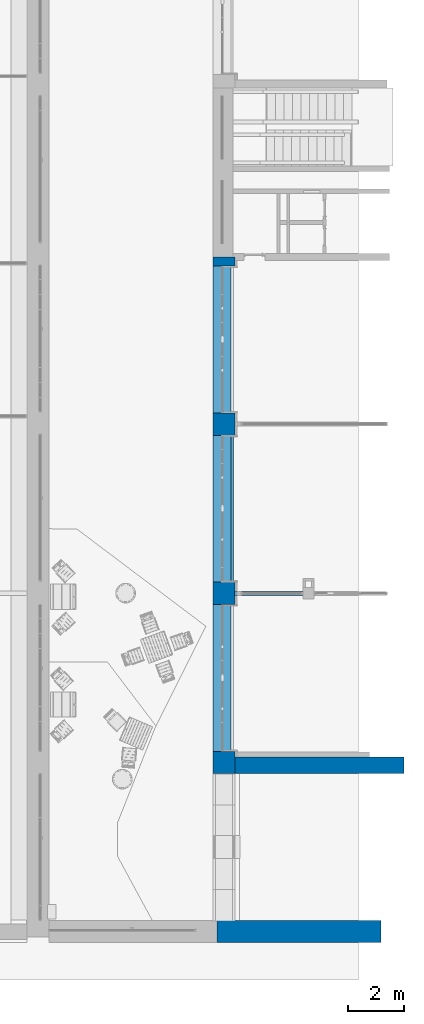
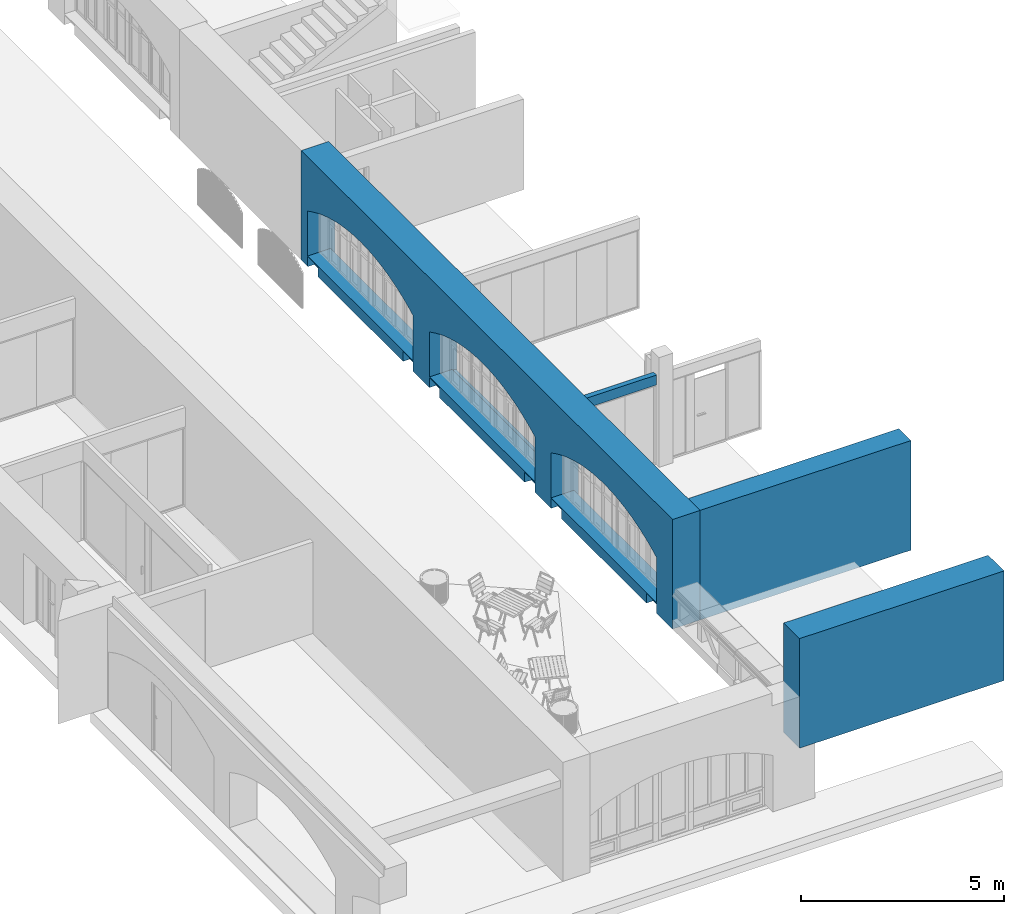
# One storey, part 71 of 88: 5 walls, 13 openings.
"""IFC2X3 building model written with IfcOpenShell, lengths in millimetres."""

from ifc_helpers import new_model, entity, si_unit, converted_unit, derived_unit, direction, frame, frame_2d, origin, origin_2d_with_axis, place, context, subcontext, project, spatial, polyline, circle_curve, parameter, trimmed, segment, composite_curve, rectangle, outline, extrude, faceted_brep, material, layer, layer_set, layer_usage, type_object, element, save


model = new_model("IFC2X3")

# Units and contexts
model_context = context("Model", 3, precision=0.01, world=origin(), true_north=direction((6.123031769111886e-17, 1.0)))
body_context = subcontext(model_context, "Body", "Model", "MODEL_VIEW")
ifc_project = project(units=[si_unit("LENGTHUNIT", "METRE", prefix="MILLI"), si_unit("AREAUNIT", "SQUARE_METRE"), si_unit("VOLUMEUNIT", "CUBIC_METRE"), converted_unit("PLANEANGLEUNIT", "DEGREE", entity("IfcPlaneAngleMeasure", 0.017453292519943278), si_unit("PLANEANGLEUNIT", "RADIAN"), dimensions=[0, 0, 0, 0, 0, 0, 0]), si_unit("MASSUNIT", "GRAM", prefix="KILO"), derived_unit("MASSDENSITYUNIT", [(si_unit("MASSUNIT", "GRAM", prefix="KILO"), 1), (si_unit("LENGTHUNIT", "METRE"), -3)]), derived_unit("IONCONCENTRATIONUNIT", [(si_unit("MASSUNIT", "GRAM", prefix="KILO"), 1), (si_unit("LENGTHUNIT", "METRE"), -3)]), derived_unit("MOMENTOFINERTIAUNIT", [(si_unit("LENGTHUNIT", "METRE"), 4)]), si_unit("TIMEUNIT", "SECOND"), si_unit("FREQUENCYUNIT", "HERTZ"), si_unit("THERMODYNAMICTEMPERATUREUNIT", "DEGREE_CELSIUS"), derived_unit("THERMALTRANSMITTANCEUNIT", [(si_unit("MASSUNIT", "GRAM", prefix="KILO"), 1), (si_unit("THERMODYNAMICTEMPERATUREUNIT", "KELVIN"), -1), (si_unit("TIMEUNIT", "SECOND"), -3)]), derived_unit("THERMALCONDUCTANCEUNIT", [(si_unit("MASSUNIT", "GRAM", prefix="KILO"), 1), (si_unit("THERMODYNAMICTEMPERATUREUNIT", "KELVIN"), -1), (si_unit("TIMEUNIT", "SECOND"), -3), (si_unit("LENGTHUNIT", "METRE"), 1)]), derived_unit("VOLUMETRICFLOWRATEUNIT", [(si_unit("LENGTHUNIT", "METRE", prefix="DECI"), 3), (si_unit("TIMEUNIT", "SECOND"), -1)]), derived_unit("MASSFLOWRATEUNIT", [(si_unit("MASSUNIT", "GRAM", prefix="KILO"), 1), (si_unit("TIMEUNIT", "SECOND"), -1)]), derived_unit("ROTATIONALFREQUENCYUNIT", [(si_unit("TIMEUNIT", "SECOND"), -1)]), si_unit("ELECTRICCURRENTUNIT", "AMPERE"), si_unit("ELECTRICVOLTAGEUNIT", "VOLT"), si_unit("POWERUNIT", "WATT"), si_unit("FORCEUNIT", "NEWTON", prefix="KILO"), si_unit("ILLUMINANCEUNIT", "LUX"), si_unit("LUMINOUSFLUXUNIT", "LUMEN"), si_unit("LUMINOUSINTENSITYUNIT", "CANDELA"), si_unit("ENERGYUNIT", "JOULE"), derived_unit("USERDEFINED", [(si_unit("MASSUNIT", "GRAM", prefix="KILO"), -1), (si_unit("LENGTHUNIT", "METRE"), -2), (si_unit("TIMEUNIT", "SECOND"), 3), (si_unit("LUMINOUSFLUXUNIT", "LUMEN"), 1)]), derived_unit("USERDEFINED", [(si_unit("MASSUNIT", "GRAM", prefix="KILO"), 1), (si_unit("TIMEUNIT", "SECOND"), -3), (si_unit("LENGTHUNIT", "METRE"), 3), (si_unit("ELECTRICCURRENTUNIT", "AMPERE"), -2)]), derived_unit("SOUNDPOWERUNIT", [(si_unit("MASSUNIT", "GRAM", prefix="KILO"), 1), (si_unit("TIMEUNIT", "SECOND"), -3), (si_unit("LENGTHUNIT", "METRE"), 2)]), derived_unit("SOUNDPRESSUREUNIT", [(si_unit("MASSUNIT", "GRAM", prefix="KILO"), 1), (si_unit("LENGTHUNIT", "METRE"), -1), (si_unit("TIMEUNIT", "SECOND"), -2)]), derived_unit("LINEARVELOCITYUNIT", [(si_unit("LENGTHUNIT", "METRE"), 1), (si_unit("TIMEUNIT", "SECOND"), -1)]), si_unit("PRESSUREUNIT", "PASCAL"), derived_unit("USERDEFINED", [(si_unit("MASSUNIT", "GRAM", prefix="KILO"), 1), (si_unit("LENGTHUNIT", "METRE"), -2), (si_unit("TIMEUNIT", "SECOND"), -2)]), derived_unit("LINEARFORCEUNIT", [(si_unit("MASSUNIT", "GRAM", prefix="KILO"), 1), (si_unit("TIMEUNIT", "SECOND"), -2)]), derived_unit("PLANARFORCEUNIT", [(si_unit("MASSUNIT", "GRAM", prefix="KILO"), 1), (si_unit("LENGTHUNIT", "METRE"), -1), (si_unit("TIMEUNIT", "SECOND"), -2)]), derived_unit("SPECIFICHEATCAPACITYUNIT", [(si_unit("THERMODYNAMICTEMPERATUREUNIT", "KELVIN"), -1), (si_unit("LENGTHUNIT", "METRE"), 2), (si_unit("TIMEUNIT", "SECOND"), -2)]), derived_unit("HEATFLUXDENSITYUNIT", [(si_unit("MASSUNIT", "GRAM", prefix="KILO"), 1), (si_unit("TIMEUNIT", "SECOND"), -3)]), derived_unit("HEATINGVALUEUNIT", [(si_unit("LENGTHUNIT", "METRE"), 2), (si_unit("TIMEUNIT", "SECOND"), -2)]), derived_unit("VAPORPERMEABILITYUNIT", [(si_unit("LENGTHUNIT", "METRE"), -1), (si_unit("TIMEUNIT", "SECOND"), 1)]), derived_unit("DYNAMICVISCOSITYUNIT", [(si_unit("MASSUNIT", "GRAM", prefix="KILO"), 1), (si_unit("TIMEUNIT", "SECOND"), -1), (si_unit("LENGTHUNIT", "METRE"), -1)]), derived_unit("THERMALEXPANSIONCOEFFICIENTUNIT", [(si_unit("THERMODYNAMICTEMPERATUREUNIT", "KELVIN"), -1)]), derived_unit("MODULUSOFELASTICITYUNIT", [(si_unit("MASSUNIT", "GRAM", prefix="KILO"), 1), (si_unit("LENGTHUNIT", "METRE"), -1), (si_unit("TIMEUNIT", "SECOND"), -2)]), derived_unit("ISOTHERMALMOISTURECAPACITYUNIT", [(si_unit("MASSUNIT", "GRAM", prefix="KILO"), -1), (si_unit("LENGTHUNIT", "METRE"), 3)]), derived_unit("MOISTUREDIFFUSIVITYUNIT", [(si_unit("TIMEUNIT", "SECOND"), -1), (si_unit("LENGTHUNIT", "METRE"), 2)]), derived_unit("MASSPERLENGTHUNIT", [(si_unit("MASSUNIT", "GRAM", prefix="KILO"), 1), (si_unit("LENGTHUNIT", "METRE"), -1)]), derived_unit("THERMALRESISTANCEUNIT", [(si_unit("MASSUNIT", "GRAM", prefix="KILO"), -1), (si_unit("TIMEUNIT", "SECOND"), 3), (si_unit("THERMODYNAMICTEMPERATUREUNIT", "KELVIN"), 1)]), derived_unit("ACCELERATIONUNIT", [(si_unit("LENGTHUNIT", "METRE"), 1), (si_unit("TIMEUNIT", "SECOND"), -2)]), derived_unit("ANGULARVELOCITYUNIT", [(si_unit("TIMEUNIT", "SECOND"), -1), (si_unit("PLANEANGLEUNIT", "RADIAN"), 1)]), derived_unit("LINEARSTIFFNESSUNIT", [(si_unit("MASSUNIT", "GRAM", prefix="KILO"), 1), (si_unit("TIMEUNIT", "SECOND"), -2)]), derived_unit("WARPINGCONSTANTUNIT", [(si_unit("LENGTHUNIT", "METRE"), 6)]), derived_unit("LINEARMOMENTUNIT", [(si_unit("MASSUNIT", "GRAM", prefix="KILO"), 1), (si_unit("LENGTHUNIT", "METRE"), 1), (si_unit("TIMEUNIT", "SECOND"), -2)]), derived_unit("TORQUEUNIT", [(si_unit("MASSUNIT", "GRAM", prefix="KILO"), 1), (si_unit("LENGTHUNIT", "METRE"), 2), (si_unit("TIMEUNIT", "SECOND"), -2)])], contexts=[model_context])

# Site, building, storey
site_placement = place(None, origin())
site = spatial("IfcSite", under=ifc_project, at=site_placement, Name="Default", CompositionType="ELEMENT")
building_placement = place(site_placement, origin())
building = spatial("IfcBuilding", under=site, at=building_placement, Name="Eesti Rahvusraamatukogu hoone renoveerimise projekteerimistööd", CompositionType="ELEMENT")
storey_placement = place(building_placement, origin())
storey = spatial("IfcBuildingStorey", under=building, at=storey_placement, Name="1. korrus", CompositionType="ELEMENT", Elevation=0.0)

# Wall, openings
ifc_material_1 = material(Name="ol. olev materjal")
ifc_layer_1 = layer(ifc_material_1, 780.0)
ifc_layer_set_1 = layer_set([ifc_layer_1], Name="Basic Wall:ol. olev - 780mm")
ifc_layer_usage_1 = layer_usage(ifc_layer_set_1, "AXIS2", "NEGATIVE", 390.0)
wall_type_1 = type_object("IfcWallType", Name="Basic Wall:ol. olev - 780mm", PredefinedType="STANDARD", material=ifc_layer_set_1)
wall_1_placement = place(storey_placement, frame((-36390.0, 24315.0, 1650.0), z_axis=(0.0, 0.0, 1.0), x_axis=(0.0, -1.0, 0.0)))
wall_1 = element("IfcWallStandardCase", 1, at=wall_1_placement, inside=storey, type_object=wall_type_1, material=ifc_layer_usage_1, Name="Basic Wall:ol. olev - 780mm", ObjectType="Basic Wall:ol. olev - 780mm", context=body_context, shape_type="SweptSolid", body=[
    extrude(rectangle(XDim=18314.999999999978, YDim=779.9999999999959, at=frame_2d((9157.499999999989, 3.126388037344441e-13), x_axis=(-1.0, 0.0))), origin(), (0.0, 0.0, 1.0), 3300.000000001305),
])
opening_1_placement = place(wall_1_placement, frame((24315.0, 36390.0, -1650.0)))
element("IfcOpeningElement", 2, at=opening_1_placement, cuts=wall_1, Name="Basic Wall:ol. olev - 780mm", ObjectType="Recess", context=body_context, shape_type="SweptSolid", body=[
    extrude(rectangle(XDim=3600.000000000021, YDim=499.999999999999, at=origin_2d_with_axis()), frame((-7040.0, -36790.0, 150.0), z_axis=(0.0, 1.0, 0.0), x_axis=(0.0, 0.0, -1.0)), (0.0, 0.0, 1.0), 199.99999999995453),
    extrude(rectangle(XDim=3600.000000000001, YDim=499.999999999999, at=frame_2d((0.0, -4.334310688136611e-12), x_axis=(1.0, 0.0))), frame((-47740.0, -36790.0, 150.0), z_axis=(0.0, 1.0, 0.0), x_axis=(0.0, 0.0, -1.0)), (0.0, 0.0, 1.0), 199.99999999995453),
    extrude(rectangle(XDim=3599.9999999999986, YDim=499.999999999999, at=frame_2d((0.0, -4.334310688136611e-12), x_axis=(1.0, 0.0))), frame((-43040.0, -36790.0, 150.0), z_axis=(0.0, 1.0, 0.0), x_axis=(0.0, 0.0, -1.0)), (0.0, 0.0, 1.0), 199.99999999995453),
    extrude(rectangle(XDim=3600.0000000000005, YDim=499.999999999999, at=frame_2d((2.2737367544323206e-13, -4.334310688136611e-12), x_axis=(1.0, 0.0))), frame((-41740.0, -36790.0, 150.0), z_axis=(0.0, 1.0, 0.0), x_axis=(0.0, 0.0, -1.0)), (0.0, 0.0, 1.0), 199.99999999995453),
    extrude(rectangle(XDim=3599.999999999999, YDim=499.999999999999, at=origin_2d_with_axis()), frame((-37040.0, -36790.0, 150.0), z_axis=(0.0, 1.0, 0.0), x_axis=(0.0, 0.0, -1.0)), (0.0, 0.0, 1.0), 199.99999999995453),
    extrude(rectangle(XDim=3599.999999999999, YDim=499.999999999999, at=origin_2d_with_axis()), frame((-35740.0, -36790.0, 150.0), z_axis=(0.0, 1.0, 0.0), x_axis=(0.0, 0.0, -1.0)), (0.0, 0.0, 1.0), 199.99999999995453),
    extrude(rectangle(XDim=3599.9999999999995, YDim=499.999999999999, at=frame_2d((-2.2737367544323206e-13, 0.0), x_axis=(1.0, 0.0))), frame((-31040.0, -36790.0, 150.0), z_axis=(0.0, 1.0, 0.0), x_axis=(0.0, 0.0, -1.0)), (0.0, 0.0, 1.0), 199.99999999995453),
    extrude(rectangle(XDim=3600.000000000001, YDim=499.999999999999, at=origin_2d_with_axis()), frame((-23740.0, -36790.0, 150.0), z_axis=(0.0, 1.0, 0.0), x_axis=(0.0, 0.0, -1.0)), (0.0, 0.0, 1.0), 199.99999999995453),
    extrude(rectangle(XDim=3600.0000000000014, YDim=500.0000000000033, at=frame_2d((-2.2737367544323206e-13, 2.1600499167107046e-12), x_axis=(1.0, 0.0))), frame((-19040.0, -36790.0, 150.0), z_axis=(0.0, 1.0, 0.0), x_axis=(0.0, 0.0, -1.0)), (0.0, 0.0, 1.0), 199.99999999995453),
    extrude(rectangle(XDim=3600.000000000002, YDim=499.999999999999, at=origin_2d_with_axis()), frame((-17740.0, -36790.0, 150.0), z_axis=(0.0, 1.0, 0.0), x_axis=(0.0, 0.0, -1.0)), (0.0, 0.0, 1.0), 199.99999999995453),
    extrude(rectangle(XDim=3600.0000000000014, YDim=500.0000000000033, at=origin_2d_with_axis()), frame((-13040.0, -36790.0, 150.0), z_axis=(0.0, 1.0, 0.0), x_axis=(0.0, 0.0, -1.0)), (0.0, 0.0, 1.0), 199.99999999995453),
    extrude(rectangle(XDim=3600.0000000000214, YDim=499.999999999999, at=origin_2d_with_axis()), frame((-11740.0, -36790.0, 150.0), z_axis=(0.0, 1.0, 0.0), x_axis=(0.0, 0.0, -1.0)), (0.0, 0.0, 1.0), 199.99999999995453),
])
opening_2_placement = place(wall_1_placement, frame((5526.595272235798, -542.4000000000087, 320.0)))
element("IfcOpeningElement", 3, at=opening_2_placement, cuts=wall_1, Name="Basic Wall:ol. olev - 780mm", ObjectType="Opening", context=body_context, shape_type="SweptSolid", body=[
    extrude(outline(composite_curve([segment(polyline([(-675.0, -2600.0), (675.0, -2600.0)]), True, "CONTINUOUS"), segment(trimmed(circle_curve(frame_2d((-4195.143901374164, 0.0), x_axis=(0.0, -1.0)), 5520.7156800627), [parameter(61.90379627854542)], [parameter(118.09620372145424)], True, "PARAMETER"), True, "CONTINUOUS"), segment(polyline([(675.0, 2600.0), (-675.0, 2600.0)]), True, "CONTINUOUS"), segment(polyline([(-675.0, 2600.0), (-675.0, -2600.0)]), True, "CONTINUOUS")], self_intersect=False)), frame((-2601.5952722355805, 0.0, 675.0), z_axis=(0.0, 1.0, 0.0), x_axis=(0.0, 0.0, 1.0)), (0.0, 0.0, 1.0), 1084.8000000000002),
])
opening_3_placement = place(wall_1_placement, frame((11526.595272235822, -542.4000000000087, 320.0)))
element("IfcOpeningElement", 4, at=opening_3_placement, cuts=wall_1, Name="Basic Wall:ol. olev - 780mm", ObjectType="Opening", context=body_context, shape_type="SweptSolid", body=[
    extrude(outline(composite_curve([segment(polyline([(-675.0, -2600.0), (675.0, -2600.0)]), True, "CONTINUOUS"), segment(trimmed(circle_curve(frame_2d((-4195.143901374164, 0.0), x_axis=(0.0, -1.0)), 5520.7156800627), [parameter(61.90379627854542)], [parameter(118.09620372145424)], True, "PARAMETER"), True, "CONTINUOUS"), segment(polyline([(675.0, 2600.0), (-675.0, 2600.0)]), True, "CONTINUOUS"), segment(polyline([(-675.0, 2600.0), (-675.0, -2600.0)]), True, "CONTINUOUS")], self_intersect=False)), frame((-2601.5952722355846, 0.0, 675.0), z_axis=(0.0, 1.0, 0.0), x_axis=(0.0, 0.0, 1.0)), (0.0, 0.0, 1.0), 1084.8000000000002),
])
opening_4_placement = place(wall_1_placement, frame((17526.59527223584, -542.4000000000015, 320.0)))
element("IfcOpeningElement", 5, at=opening_4_placement, cuts=wall_1, Name="Basic Wall:ol. olev - 780mm", ObjectType="Opening", context=body_context, shape_type="SweptSolid", body=[
    extrude(outline(composite_curve([segment(polyline([(-675.0, -2600.0), (675.0, -2600.0)]), True, "CONTINUOUS"), segment(trimmed(circle_curve(frame_2d((-4195.143901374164, 0.0), x_axis=(0.0, -1.0)), 5520.7156800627), [parameter(61.90379627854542)], [parameter(118.09620372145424)], True, "PARAMETER"), True, "CONTINUOUS"), segment(polyline([(675.0, 2600.0), (-675.0, 2600.0)]), True, "CONTINUOUS"), segment(polyline([(-675.0, 2600.0), (-675.0, -2600.0)]), True, "CONTINUOUS")], self_intersect=False)), frame((-2601.5952722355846, 0.0, 675.0), z_axis=(0.0, 1.0, 0.0), x_axis=(0.0, 0.0, 1.0)), (0.0, 0.0, 1.0), 1084.8000000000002),
])
opening_5_placement = place(wall_1_placement, frame((24315.0, 36390.0, -1650.0)))
element("IfcOpeningElement", 6, at=opening_5_placement, cuts=wall_1, Name="Basic Wall:ol. olev - 780mm", ObjectType="Recess", context=body_context, shape_type="SweptSolid", body=[
    extrude(rectangle(XDim=320.0000000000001, YDim=5199.999999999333, at=frame_2d((-1.2789769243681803e-13, 2.2737367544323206e-12), x_axis=(1.0, 0.0))), frame((-21390.0, -36130.0, 1810.0), z_axis=(0.0, 1.0, 0.0), x_axis=(0.0, 0.0, -1.0)), (0.0, 0.0, 1.0), 130.0000000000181),
    extrude(rectangle(XDim=320.0000000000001, YDim=5200.000000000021, at=frame_2d((-1.2789769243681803e-13, 4.547473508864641e-13), x_axis=(1.0, 0.0))), frame((-9390.0, -36130.0, 1810.0), z_axis=(0.0, 1.0, 0.0), x_axis=(0.0, 0.0, -1.0)), (0.0, 0.0, 1.0), 130.00000000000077),
    extrude(rectangle(XDim=320.0000000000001, YDim=5199.999999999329, at=frame_2d((-1.2789769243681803e-13, 0.0), x_axis=(1.0, 0.0))), frame((-15390.0, -36130.0, 1810.0), z_axis=(0.0, 1.0, 0.0), x_axis=(0.0, 0.0, -1.0)), (0.0, 0.0, 1.0), 130.0000000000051),
])
opening_6_placement = place(wall_1_placement, frame((24315.0, 36390.0, 3300.000000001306)))
element("IfcOpeningElement", 7, at=opening_6_placement, cuts=wall_1, Name="Basic Wall:ol. olev - 780mm", ObjectType="Opening", context=body_context, shape_type="SweptSolid", body=[
    extrude(outline(composite_curve([segment(polyline([(-2610.0, -1138.0), (2610.0, -1138.0)]), True, "CONTINUOUS"), segment(polyline([(2610.0, -1138.0), (2610.0, 522.0)]), True, "CONTINUOUS"), segment(trimmed(circle_curve(frame_2d((-84.40586071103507, -4230.534220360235), x_axis=(-1.0, 0.0)), 5463.186291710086), [parameter(240.4493273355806)], [parameter(269.1147488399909)], True, "PARAMETER"), True, "CONTINUOUS"), segment(trimmed(circle_curve(frame_2d((84.4058607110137, -4230.534220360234), x_axis=(-1.0, 0.0)), 5463.186291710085), [parameter(270.88525116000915)], [parameter(299.55067266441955)], True, "PARAMETER"), True, "CONTINUOUS"), segment(polyline([(-2610.0, 522.0), (-2610.0, -1138.0)]), True, "CONTINUOUS")], self_intersect=False)), frame((-3390.0, -38334.0, 1138.0), z_axis=(0.0, 1.0, 0.0), x_axis=(-1.0, 0.0, 0.0)), (0.0, 0.0, 1.0), 3048.0),
])

ifc_layer_usage_2 = layer_usage(ifc_layer_set_1, "AXIS2", "NEGATIVE", 390.0)
wall_2_placement = place(storey_placement, frame((-30810.0, 390.0, 1650.0), z_axis=(0.0, 0.0, 1.0), x_axis=(-1.0, 0.0, 0.0)))
wall_2 = element("IfcWallStandardCase", 8, at=wall_2_placement, inside=storey, type_object=wall_type_1, material=ifc_layer_usage_2, Name="Basic Wall:ol. olev - 780mm", ObjectType="Basic Wall:ol. olev - 780mm", context=body_context, shape_type="SweptSolid", body=[
    extrude(rectangle(XDim=5820.000000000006, YDim=779.9999999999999, at=frame_2d((2910.000000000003, -2.842170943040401e-14), x_axis=(-1.0, 0.0))), origin(), (0.0, 0.0, 1.0), 3300.0000000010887),
])
opening_7_placement = place(wall_2_placement, frame((11781.595272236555, 542.4000000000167, -1700.0)))
element("IfcOpeningElement", 9, at=opening_7_placement, cuts=wall_2, Name="Basic Wall:ol. olev - 780mm", ObjectType="Opening", context=body_context, shape_type="SweptSolid", body=[
    extrude(outline(composite_curve([segment(polyline([(-874.8853279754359, -2600.0), (874.885327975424, -2600.0)]), True, "CONTINUOUS"), segment(trimmed(circle_curve(frame_2d((-3998.1658947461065, 0.0), x_axis=(0.0, -1.0)), 5523.28056677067), [parameter(61.91799981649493)], [parameter(118.08200018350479)], True, "PARAMETER"), True, "CONTINUOUS"), segment(polyline([(874.8853279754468, 2600.0), (-874.8853279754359, 2600.0)]), True, "CONTINUOUS"), segment(polyline([(-874.8853279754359, 2600.0), (-874.8853279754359, -2600.0)]), True, "CONTINUOUS")], self_intersect=False)), frame((-2601.595272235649, -1084.8000000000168, 874.8853279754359), z_axis=(0.0, 1.0, 0.0), x_axis=(0.0, 0.0, 1.0)), (0.0, 0.0, 1.0), 1084.8),
])
opening_8_placement = place(wall_2_placement, frame((17770.0, 542.4000000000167, -1650.0)))
element("IfcOpeningElement", 10, at=opening_8_placement, cuts=wall_2, Name="Basic Wall:ol. olev - 780mm", ObjectType="Opening", context=body_context, shape_type="SweptSolid", body=[
    extrude(rectangle(XDim=2550.000000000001, YDim=5199.999999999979, at=origin_2d_with_axis()), frame((-2600.0, -1084.8000000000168, 1275.0), z_axis=(0.0, 1.0, 0.0), x_axis=(0.0, 0.0, 1.0)), (0.0, 0.0, 1.0), 1084.8),
])

ifc_layer_2 = layer(ifc_material_1, 590.0)
ifc_layer_set_2 = layer_set([ifc_layer_2], Name="Basic Wall:ol. olev - 590mm")
ifc_layer_usage_3 = layer_usage(ifc_layer_set_2, "AXIS2", "NEGATIVE", 295.0)
wall_type_2 = type_object("IfcWallType", Name="Basic Wall:ol. olev - 590mm", PredefinedType="STANDARD", material=ifc_layer_set_2)
wall_3_placement = place(storey_placement, frame((-30000.0, 6295.0, 1650.0), z_axis=(0.0, 0.0, 1.0), x_axis=(-1.0, 0.0, 0.0)))
wall_3 = element("IfcWallStandardCase", 11, at=wall_3_placement, inside=storey, type_object=wall_type_2, material=ifc_layer_usage_3, Name="Basic Wall:ol. olev - 590mm", ObjectType="Basic Wall:ol. olev - 590mm", context=body_context, shape_type="SweptSolid", body=[
    extrude(rectangle(XDim=6000.000000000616, YDim=590.0000000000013, at=frame_2d((3000.000000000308, -8.526512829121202e-14), x_axis=(-1.0, 0.0))), origin(), (0.0, 0.0, 1.0), 3300.000000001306),
])
opening_9_placement = place(wall_3_placement, frame((-30000.0, 6295.0, -1650.0)))
element("IfcOpeningElement", 12, at=opening_9_placement, cuts=wall_3, Name="Basic Wall:ol. olev - 590mm", ObjectType="Opening", context=body_context, shape_type="SweptSolid", body=[
    extrude(outline(composite_curve([segment(polyline([(-2610.0, -695.0), (2610.0, -695.0)]), True, "CONTINUOUS"), segment(polyline([(2610.0, -695.0), (2610.0, 695.0)]), True, "CONTINUOUS"), segment(trimmed(circle_curve(frame_2d((0.0, 695.0), x_axis=(-1.0, 0.0)), 2609.9999999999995), [parameter(180.00000000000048)], [parameter(3.5622212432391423e-13)], True, "PARAMETER"), True, "CONTINUOUS"), segment(polyline([(-2610.0, 695.0), (-2610.0, -695.0)]), True, "CONTINUOUS")], self_intersect=False)), frame((3400.0, -8114.0, 695.0), z_axis=(0.0, 1.0, 0.0), x_axis=(-1.0, 0.0, 0.0)), (0.0, 0.0, 1.0), 3048.0),
])
opening_10_placement = place(wall_3_placement, frame((-30000.0, 6295.0, 0.0)))
element("IfcOpeningElement", 13, at=opening_10_placement, cuts=wall_3, Name="Basic Wall:ol. olev - 590mm", ObjectType="Opening", context=body_context, shape_type="Brep", body=[
    faceted_brep([(24780.0, -3780.0, 0.0), (24780.0, -3780.0, 1950.0), (24780.0, -3906.316483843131, 2025.5811205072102), (24780.0, -4037.395462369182, 2092.5636649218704), (24780.0, -4172.652468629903, 2150.648965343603), (24780.0, -4311.484406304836, 2199.5780257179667), (24780.0, -4453.272238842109, 2239.1326766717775), (24780.0, -4597.383749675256, 2269.136548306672), (24780.0, -4743.176361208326, 2289.4558566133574), (24780.0, -4890.0, 2300.0), (24780.0, -5036.823638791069, 2289.455856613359), (24780.0, -5182.61625032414, 2269.136548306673), (24780.0, -5326.727761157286, 2239.1326766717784), (24780.0, -5468.515593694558, 2199.5780257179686), (24780.0, -5607.3475313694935, 2150.6489653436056), (24780.0, -5742.604537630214, 2092.563664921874), (24780.0, -5873.683516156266, 2025.5811205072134), (24780.0, -6000.0, 1950.0), (24780.0, -6000.0, 0.0), (24000.0, -4743.176361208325, 2289.4558566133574), (24000.0, -4597.383749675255, 2269.136548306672), (24000.0, -4453.272238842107, 2239.1326766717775), (24000.0, -4311.484406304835, 2199.5780257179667), (24000.0, -4172.652468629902, 2150.648965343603), (24000.0, -4037.395462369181, 2092.5636649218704), (24000.0, -3906.3164838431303, 2025.5811205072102), (24000.0, -3780.0, 1950.0), (24000.0, -3780.0, 0.0), (24000.0, -6000.0, 0.0), (24000.0, -6000.0, 1950.0), (24000.0, -5873.683516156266, 2025.5811205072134), (24000.0, -5742.604537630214, 2092.563664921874), (24000.0, -5607.3475313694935, 2150.6489653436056), (24000.0, -5468.5155936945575, 2199.5780257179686), (24000.0, -5326.727761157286, 2239.1326766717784), (24000.0, -5182.616250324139, 2269.136548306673), (24000.0, -5036.823638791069, 2289.455856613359), (24000.0, -4890.0, 2300.0)], [[[0, 1, 2, 3, 4, 5, 6, 7, 8, 9, 10, 11, 12, 13, 14, 15, 16, 17, 18]], [[19, 20, 21, 22, 23, 24, 25, 26, 27, 28, 29, 30, 31, 32, 33, 34, 35, 36, 37]], [[1, 0, 27, 26]], [[2, 1, 26, 25]], [[3, 2, 25, 24]], [[4, 3, 24, 23]], [[5, 4, 23, 22]], [[7, 6, 21, 20]], [[8, 7, 20, 19]], [[9, 8, 19, 37]], [[22, 21, 6, 5]], [[10, 9, 37, 36]], [[11, 10, 36, 35]], [[12, 11, 35, 34]], [[13, 12, 34, 33]], [[15, 14, 32, 31]], [[16, 15, 31, 30]], [[17, 16, 30, 29]], [[33, 32, 14, 13]], [[18, 17, 29, 28]], [[0, 18, 28, 27]]]),
])
opening_11_placement = place(wall_3_placement, frame((-30000.0, 6295.0, 3300.000000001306)))
element("IfcOpeningElement", 14, at=opening_11_placement, cuts=wall_3, Name="Basic Wall:ol. olev - 590mm", ObjectType="Opening", context=body_context, shape_type="SweptSolid", body=[
    extrude(outline(composite_curve([segment(polyline([(-650.0, -1443.2352446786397), (650.0, -1443.2352446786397)]), True, "CONTINUOUS"), segment(polyline([(650.0, -1443.2352446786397), (650.0, 506.76475532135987)]), True, "CONTINUOUS"), segment(polyline([(650.0, 506.76475532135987), (1107.1999999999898, 506.76475532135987)]), True, "CONTINUOUS"), segment(trimmed(circle_curve(frame_2d((0.0, -1055.0421411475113), x_axis=(-1.0, 0.0)), 1914.4536092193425), [parameter(234.6663155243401)], [parameter(270.0000000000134)], True, "PARAMETER"), True, "CONTINUOUS"), segment(trimmed(circle_curve(frame_2d((0.0, -1055.0421411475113), x_axis=(-1.0, 0.0)), 1914.4536092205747), [parameter(270.0000000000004)], [parameter(305.333684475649)], True, "PARAMETER"), True, "CONTINUOUS"), segment(polyline([(-1107.1999999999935, 506.76475532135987), (-650.0, 506.76475532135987)]), True, "CONTINUOUS"), segment(polyline([(-650.0, 506.76475532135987), (-650.0, -1443.2352446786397)]), True, "CONTINUOUS")], self_intersect=False)), frame((28892.79999999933, -8114.0, 1443.2352446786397), z_axis=(0.0, 1.0, 0.0), x_axis=(-1.0, 0.0, 0.0)), (0.0, 0.0, 1.0), 3048.0),
])
opening_12_placement = place(wall_3_placement, frame((-30000.0, 6295.0, 3300.000000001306)))
element("IfcOpeningElement", 15, at=opening_12_placement, cuts=wall_3, Name="Basic Wall:ol. olev - 590mm", ObjectType="Opening", context=body_context, shape_type="SweptSolid", body=[
    extrude(rectangle(XDim=1950.0000000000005, YDim=457.20000000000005, at=frame_2d((-5.115907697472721e-13, 0.0), x_axis=(1.0, 0.0))), frame((28014.19999999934, -8114.0, 975.0), z_axis=(0.0, 1.0, 0.0), x_axis=(0.0, 0.0, -1.0)), (0.0, 0.0, 1.0), 3048.0),
])
opening_13_placement = place(wall_3_placement, frame((-30000.0, 6295.0, 3300.000000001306)))
element("IfcOpeningElement", 16, at=opening_13_placement, cuts=wall_3, Name="Basic Wall:ol. olev - 590mm", ObjectType="Opening", context=body_context, shape_type="SweptSolid", body=[
    extrude(rectangle(XDim=1950.0000000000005, YDim=457.20000000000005, at=frame_2d((-5.115907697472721e-13, 0.0), x_axis=(1.0, 0.0))), frame((29771.39999999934, -8114.0, 975.0), z_axis=(0.0, 1.0, 0.0), x_axis=(0.0, 0.0, -1.0)), (0.0, 0.0, 1.0), 3048.0),
])

# Walls
ifc_material_2 = material(Name="EST. Ehitusplaat. Kipsplaat")
ifc_layer_3 = layer(ifc_material_2, 12.5)
ifc_layer_4 = layer(ifc_material_2, 12.5)
ifc_material_3 = material(Name="EST. Roov. Kipsplaadi alusroov.Mineraalvillaga. Vertikaalne")
ifc_layer_5 = layer(ifc_material_3, 95.00000000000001)
ifc_layer_6 = layer(ifc_material_2, 12.5)
ifc_layer_7 = layer(ifc_material_2, 12.5)
ifc_layer_set_3 = layer_set([ifc_layer_3, ifc_layer_4, ifc_layer_5, ifc_layer_6, ifc_layer_7], Name="Basic Wall:SS-52 - 145 kergsein 48db")
ifc_layer_usage_4 = layer_usage(ifc_layer_set_3, "AXIS2", "NEGATIVE", 72.5)
wall_type_3 = type_object("IfcWallType", Name="Basic Wall:SS-52 - 145 kergsein 48db", PredefinedType="STANDARD", material=ifc_layer_set_3)
wall_4_placement = place(storey_placement, frame((-33590.0, 12390.0, 4050.0000000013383), z_axis=(0.0, 0.0, 1.0), x_axis=(-1.0, 0.0, 0.0)))
element("IfcWallStandardCase", 17, at=wall_4_placement, inside=storey, type_object=wall_type_3, material=ifc_layer_usage_4, Name="Basic Wall:SS-52 - 145 kergsein 48db", ObjectType="Basic Wall:SS-52 - 145 kergsein 48db", context=body_context, shape_type="SweptSolid", body=[
    extrude(rectangle(XDim=2420.000000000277, YDim=145.00000000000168, at=frame_2d((1210.0000000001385, 0.0), x_axis=(-1.0, 0.0))), origin(), (0.0, 0.0, 1.0), 300.00000000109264),
])
ifc_material_4 = material(Name="EST. Soojustus.PIR_Powerwall Pro")
ifc_layer_8 = layer(ifc_material_4, 30.0)
ifc_material_5 = material(Name="EST. Metall. Alumiinium. Mütsprofiil.")
ifc_layer_9 = layer(ifc_material_5, 42.0)
ifc_layer_10 = layer(ifc_material_2, 12.5)
ifc_layer_set_4 = layer_set([ifc_layer_8, ifc_layer_9, ifc_layer_10], Name="Basic Wall:VS-03.1 - soojustus")
ifc_layer_usage_5 = layer_usage(ifc_layer_set_4, "AXIS2", "POSITIVE", -42.25000000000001)
wall_type_4 = type_object("IfcWallType", Name="Basic Wall:VS-03.1 - soojustus", PredefinedType="STANDARD", material=ifc_layer_set_4)
wall_5_placement = place(storey_placement, frame((-36087.74999999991, 17950.499999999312, 1650.0), z_axis=(0.0, 0.0, 1.0), x_axis=(0.0, -1.0, 0.0)))
element("IfcWallStandardCase", 18, at=wall_5_placement, inside=storey, type_object=wall_type_4, material=ifc_layer_usage_5, Name="Basic Wall:VS-03.1 - soojustus", ObjectType="Basic Wall:VS-03.1 - soojustus", context=body_context, shape_type="SweptSolid", body=[
    extrude(rectangle(XDim=5120.999999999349, YDim=84.49999999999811, at=frame_2d((2560.4999999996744, 0.0), x_axis=(-1.0, 0.0))), origin(), (0.0, 0.0, 1.0), 319.99999999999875),
])

save(model, "model.ifc")
